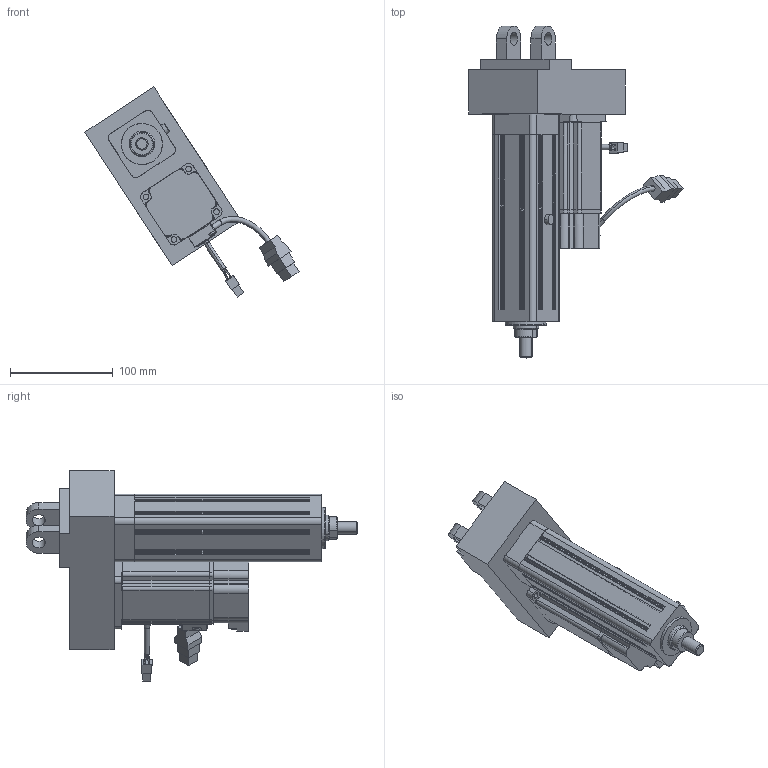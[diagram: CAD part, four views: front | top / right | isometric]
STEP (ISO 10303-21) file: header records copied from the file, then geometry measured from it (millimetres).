
FILE_DESCRIPTION (( 'STEP AP203' ), '1' );
FILE_NAME ('S1殏殿帣蝓假蚾.STEP', '2024-05-27T05:04:18', ( '' ), ( '' ), 'SwSTEP 2.0', 'SolidWorks 2018', '' );
FILE_SCHEMA (( 'CONFIG_CONTROL_DESIGN' ));
Length unit declared in the file: millimetre
Products named in the file (3): S1殏殿帣蝓; EC; S1殏殿帣蝓假蚾
Assembly tree (2 placements, depth 2):
  S1殏殿帣蝓假蚾
    EC
    S1殏殿帣蝓
Bounding box: 208.13 x 322.5 x 204.08 mm (x, y, z)
Volume: 1269232.8 mm3; surface area: 203162 mm2
Topology: 2 solids, 9 shells, 623 faces, 1541 edges, 964 vertices
Faces by surface type: plane 331, cylinder 225, cone 38, bspline 11, torus 10, sphere 8
Entity records: 20048 total; most frequent: CARTESIAN_POINT 5129, ORIENTED_EDGE 3078, DIRECTION 2960, EDGE_CURVE 1539, AXIS2_PLACEMENT_3D 1007, VERTEX_POINT 964, VECTOR 946, LINE 946
